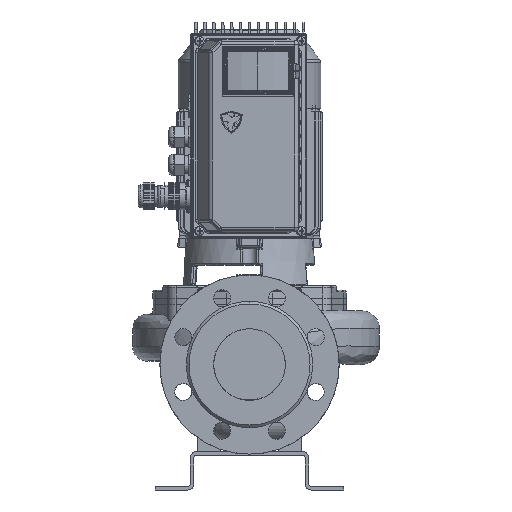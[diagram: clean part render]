
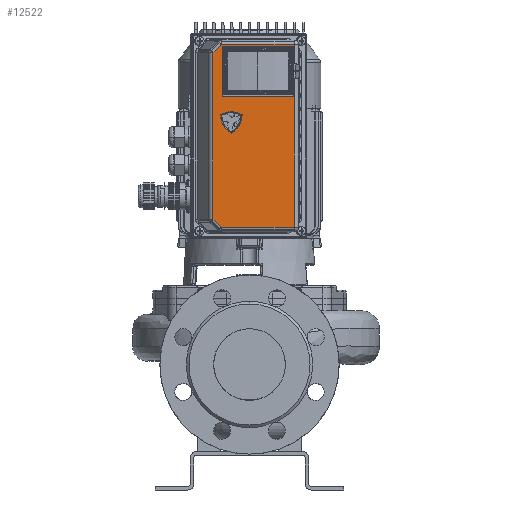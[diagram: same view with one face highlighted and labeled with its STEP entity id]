
A CAD part, front view. The second image highlights one B-rep face of the part: STEP entity #12522.
In plain terms, the highlighted planar face has unit normal (0, -1, 0) as drawn and (0, 0.276, -0.961) by its records, which use the part's own axes.
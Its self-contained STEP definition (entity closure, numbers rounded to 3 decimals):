
#12522=ADVANCED_FACE('',(#24608,#24609),#24610,.F.);
#24608=FACE_BOUND('',#45091,.T.);
#24609=FACE_OUTER_BOUND('',#45092,.T.);
#24610=PLANE('',#45093);
#45091=EDGE_LOOP('',(#72321,#72322,#72323,#72324));
#45092=EDGE_LOOP('',(#72325,#72326,#72327,#72328,#72329,#72330));
#45093=AXIS2_PLACEMENT_3D('',#72331,#72332,#72333);
#72321=ORIENTED_EDGE('',*,*,#96695,.T.);
#72322=ORIENTED_EDGE('',*,*,#96698,.T.);
#72323=ORIENTED_EDGE('',*,*,#96688,.T.);
#72324=ORIENTED_EDGE('',*,*,#96692,.T.);
#72325=ORIENTED_EDGE('',*,*,#95784,.F.);
#72326=ORIENTED_EDGE('',*,*,#97536,.F.);
#72327=ORIENTED_EDGE('',*,*,#97542,.F.);
#72328=ORIENTED_EDGE('',*,*,#96261,.T.);
#72329=ORIENTED_EDGE('',*,*,#97074,.T.);
#72330=ORIENTED_EDGE('',*,*,#97540,.T.);
#72331=CARTESIAN_POINT('',(0.,13.785,32.694));
#72332=DIRECTION('',(0.0,-0.276,0.961));
#72333=DIRECTION('',(-0.0,0.961,0.276));
#95784=EDGE_CURVE('',#119708,#119710,#119711,.T.);
#96261=EDGE_CURVE('',#120525,#120523,#120526,.T.);
#96688=EDGE_CURVE('',#121246,#121247,#121248,.T.);
#96692=EDGE_CURVE('',#121247,#121252,#121253,.T.);
#96695=EDGE_CURVE('',#121252,#121256,#121257,.T.);
#96698=EDGE_CURVE('',#121256,#121246,#121260,.T.);
#97074=EDGE_CURVE('',#120523,#121689,#121691,.T.);
#97536=EDGE_CURVE('',#122211,#119708,#122213,.T.);
#97540=EDGE_CURVE('',#121689,#119710,#122217,.T.);
#97542=EDGE_CURVE('',#120525,#122211,#122219,.T.);
#119708=VERTEX_POINT('',#138029);
#119710=VERTEX_POINT('',#138031);
#119711=LINE('',#138032,#138033);
#120523=VERTEX_POINT('',#138972);
#120525=VERTEX_POINT('',#138974);
#120526=LINE('',#138975,#138976);
#121246=VERTEX_POINT('',#139835);
#121247=VERTEX_POINT('',#139836);
#121248=LINE('',#139837,#139838);
#121252=VERTEX_POINT('',#139844);
#121253=LINE('',#139845,#139846);
#121256=VERTEX_POINT('',#139850);
#121257=LINE('',#139851,#139852);
#121260=LINE('',#139856,#139857);
#121689=VERTEX_POINT('',#140337);
#121691=LINE('',#140339,#140340);
#122211=VERTEX_POINT('',#140958);
#122213=LINE('',#140960,#140961);
#122217=LINE('',#140965,#140966);
#122219=LINE('',#140968,#140969);
#138029=CARTESIAN_POINT('',(-102.0,48.307,42.593));
#138031=CARTESIAN_POINT('',(-102.0,-29.808,20.194));
#138032=CARTESIAN_POINT('',(-102.0,-21.808,22.488));
#138033=VECTOR('',#155173,1.);
#138972=CARTESIAN_POINT('',(102.0,48.307,42.593));
#138974=CARTESIAN_POINT('',(92.929,57.378,45.194));
#138975=CARTESIAN_POINT('',(81.022,69.285,48.608));
#138976=VECTOR('',#156063,1.);
#139835=CARTESIAN_POINT('',(-50.,42.286,40.866));
#139836=CARTESIAN_POINT('',(-95.,42.286,40.866));
#139837=CARTESIAN_POINT('',(-36.25,42.286,40.866));
#139838=VECTOR('',#156851,1.);
#139844=CARTESIAN_POINT('',(-95.,-24.041,21.847));
#139845=CARTESIAN_POINT('',(-95.,11.454,32.025));
#139846=VECTOR('',#156854,1.);
#139850=CARTESIAN_POINT('',(-50.,-24.041,21.847));
#139851=CARTESIAN_POINT('',(-36.25,-24.041,21.847));
#139852=VECTOR('',#156856,1.);
#139856=CARTESIAN_POINT('',(-50.,11.454,32.025));
#139857=VECTOR('',#156858,1.);
#140337=CARTESIAN_POINT('',(102.0,-29.808,20.194));
#140339=CARTESIAN_POINT('',(102.0,-21.808,22.488));
#140340=VECTOR('',#157444,1.0);
#140958=CARTESIAN_POINT('',(-92.929,57.378,45.194));
#140960=CARTESIAN_POINT('',(-81.022,69.285,48.608));
#140961=VECTOR('',#158119,1.);
#140965=CARTESIAN_POINT('',(0.,-29.808,20.194));
#140966=VECTOR('',#158123,1.0);
#140968=CARTESIAN_POINT('',(0.,57.378,45.194));
#140969=VECTOR('',#158124,1.0);
#155173=DIRECTION('',(0.,-0.961,-0.276));
#156063=DIRECTION('',(0.693,-0.693,-0.199));
#156851=DIRECTION('',(-1.0,0.,0.));
#156854=DIRECTION('',(-0.0,-0.961,-0.276));
#156856=DIRECTION('',(1.0,0.,0.));
#156858=DIRECTION('',(-0.0,0.961,0.276));
#157444=DIRECTION('',(0.,-0.961,-0.276));
#158119=DIRECTION('',(-0.693,-0.693,-0.199));
#158123=DIRECTION('',(-1.0,0.0,0.0));
#158124=DIRECTION('',(-1.0,0.0,0.0));
